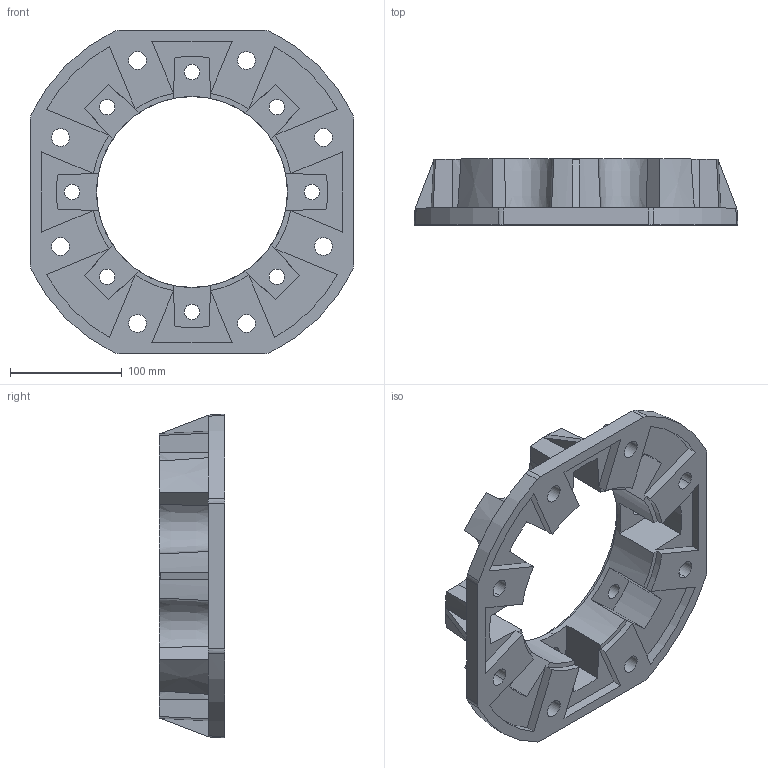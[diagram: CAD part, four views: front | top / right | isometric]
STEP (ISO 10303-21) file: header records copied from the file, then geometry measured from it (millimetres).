
FILE_DESCRIPTION((''),'2;1');
FILE_NAME('FLAOUTFB130','2013-09-02T',('atrevisan'),(''),'PRO/ENGINEER BY PARAMETRIC TECHNOLOGY CORPORATION, 2011490','PRO/ENGINEER BY PARAMETRIC TECHNOLOGY CORPORATION, 2011490','');
FILE_SCHEMA(('CONFIG_CONTROL_DESIGN'));
Length unit declared in the file: millimetre
Products named in the file (1): FLAOUTFB130
Bounding box: 290 x 59 x 290 mm (x, y, z)
Volume: 914496.4 mm3; surface area: 233954.6 mm2
Topology: 1 solids, 1 shells, 183 faces, 516 edges, 336 vertices
Faces by surface type: plane 99, cylinder 56, cone 20, bspline 8
Entity records: 6340 total; most frequent: CARTESIAN_POINT 1475, ORIENTED_EDGE 1032, DIRECTION 986, EDGE_CURVE 516, AXIS2_PLACEMENT_3D 347, VERTEX_POINT 336, VECTOR 292, LINE 292
